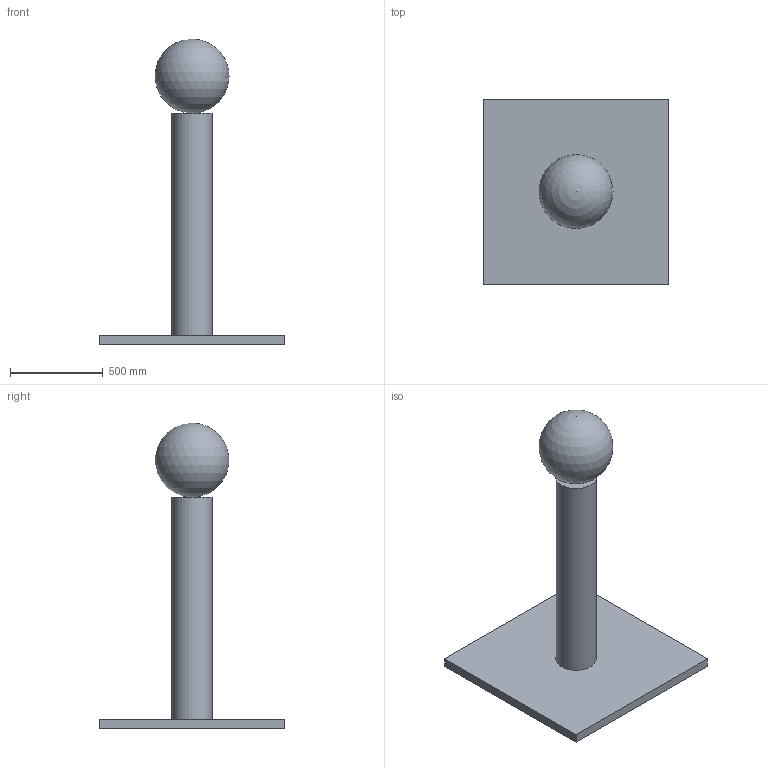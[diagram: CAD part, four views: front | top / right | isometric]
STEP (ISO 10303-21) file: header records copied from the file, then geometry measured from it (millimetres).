
FILE_DESCRIPTION(('cad_demo'),'2;1');
FILE_NAME('cad_demo','1970-01-01T00:00:00',('OmniBlick --selftest'),(''),'OmniBlick','OmniBlick','');
FILE_SCHEMA(('AUTOMOTIVE_DESIGN { 1 0 10303 214 3 1 1 1 }'));
Length unit declared in the file: millimetre
Products named in the file (3): cylinder; box; sphere
Bounding box: 1000 x 1000 x 1650 mm (x, y, z)
Volume: 127808889.2 mm3; surface area: 3593802.5 mm2
Topology: 3 solids, 3 shells, 10 faces, 18 edges, 12 vertices
Faces by surface type: plane 8, cylinder 1, sphere 1
Full cylindrical faces by diameter (mm): 216.8 x1
Entity records: 272 total; most frequent: DIRECTION 47, CARTESIAN_POINT 43, ORIENTED_EDGE 34, EDGE_CURVE 18, AXIS2_PLACEMENT_3D 16, VECTOR 15, LINE 15, VERTEX_POINT 12
